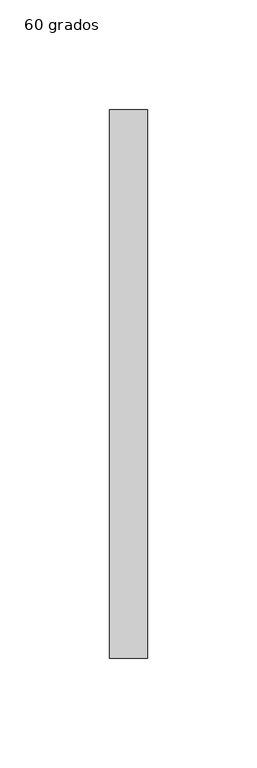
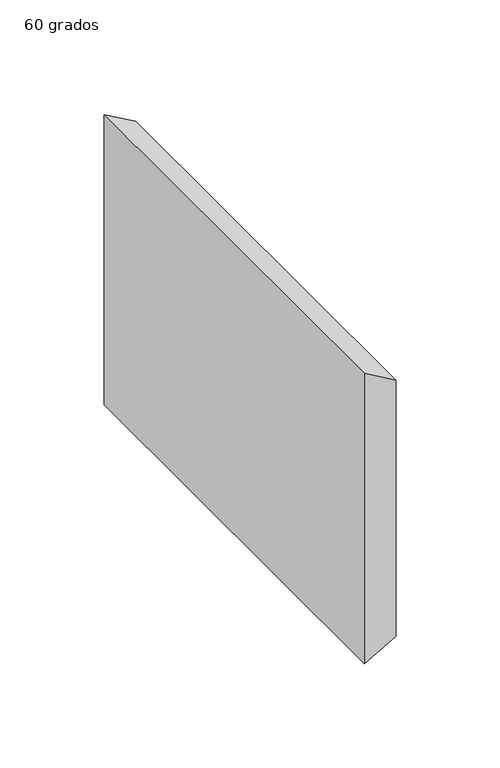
"""IFC4 building model written with IfcOpenShell, lengths in millimetres: duct fitting geometry, M_Transición rectangular - Ángulo : 60 grados."""

import ifcopenshell
import ifcopenshell.guid

model = None  # the IFC model being written
_history = None  # IfcOwnerHistory: only IFC2X3 demands one
_inside = {}  # id of a spatial element -> (the spatial element, [elements in it])
_under = {}  # id of a project, library or spatial element -> (it, [spatial elements below it])
_declared = {}  # id of a project -> (the project, [libraries it declares])
_typed = {}  # id of a type object -> (the type object, [elements of that type])
_made_of = {}  # id of a material, layer set ... -> (it, [elements and type objects made of it])


def new_model(schema):
    """Start an empty IFC model of exactly this schema.

    Asked for "IFC4X3", IfcOpenShell would pick the latest addendum, in which some entities
    have other attributes; the version numbers below select the first issue.
    IFC2X3 requires an IfcOwnerHistory on every rooted entity: one is made here for all.
    """
    global model, _history
    if schema == "IFC4X3":
        model = ifcopenshell.file(schema_version=(4, 3, 0, 0))
    else:
        model = ifcopenshell.file(schema=schema)
    _inside.clear()
    _under.clear()
    _declared.clear()
    _typed.clear()
    _made_of.clear()
    _history = None
    if model.schema == "IFC2X3":
        org = make("IfcOrganization", Name="unknown")
        user = make(
            "IfcPersonAndOrganization",
            ThePerson=make("IfcPerson", FamilyName="unknown"),
            TheOrganization=org,
        )
        app = make(
            "IfcApplication",
            ApplicationDeveloper=org,
            Version="unknown",
            ApplicationFullName="unknown",
            ApplicationIdentifier="unknown",
        )
        _history = make(
            "IfcOwnerHistory",
            OwningUser=user,
            OwningApplication=app,
            ChangeAction="ADDED",
            CreationDate=0,
        )
    return model


def make(cls, **values):
    """One entity of the class cls with the attributes given. An attribute that is None is left unset."""
    return model.create_entity(
        cls, **{name: value for name, value in values.items() if value is not None}
    )


def rooted(cls, **values):
    """An entity with a GlobalId (a new one), such as an element, a storey or a relation."""
    return make(cls, GlobalId=ifcopenshell.guid.new(), OwnerHistory=_history, **values)


def si_unit(unit_type, name, prefix=None):
    """IfcSIUnit, for example si_unit("LENGTHUNIT", "METRE", prefix="MILLI")."""
    return make("IfcSIUnit", UnitType=unit_type, Prefix=prefix, Name=name)


def assignment(units):
    """IfcUnitAssignment: the units of a project."""
    return None if units is None else make("IfcUnitAssignment", Units=units)


def point(xyz):
    """IfcCartesianPoint."""
    return None if xyz is None else make("IfcCartesianPoint", Coordinates=xyz)


def direction(xyz):
    """IfcDirection."""
    return None if xyz is None else make("IfcDirection", DirectionRatios=xyz)


def frame(location, z_axis=None, x_axis=None):
    """IfcAxis2Placement3D, a coordinate frame: its origin and axes. An axis left out is left unset."""
    return make(
        "IfcAxis2Placement3D",
        Location=point(location),
        Axis=direction(z_axis),
        RefDirection=direction(x_axis),
    )


def origin():
    """The frame at (0, 0, 0) with its axes left unset."""
    return frame((0.0, 0.0, 0.0))


def place(relative_to, where):
    """IfcLocalPlacement: puts the frame where relative to a parent placement (None: the world)."""
    return make(
        "IfcLocalPlacement", PlacementRelTo=relative_to, RelativePlacement=where
    )


def context(
    kind, dimensions, precision=None, world=None, true_north=None, identifier=None
):
    """IfcGeometricRepresentationContext, for example the 3D "Model" context."""
    return make(
        "IfcGeometricRepresentationContext",
        ContextIdentifier=identifier,
        ContextType=kind,
        CoordinateSpaceDimension=dimensions,
        Precision=precision,
        WorldCoordinateSystem=world,
        TrueNorth=true_north,
    )


def project(units=None, contexts=None):
    """IfcProject with its units and contexts."""
    return rooted(
        "IfcProject",
        Name="project",
        RepresentationContexts=contexts,
        UnitsInContext=assignment(units),
    )


def spatial(cls, under=None, at=None, **own):
    """A site, building, storey or space (cls), placed at a placement, below another one or the project."""
    s = rooted(cls, ObjectPlacement=at, **own)
    if under is not None:
        _under.setdefault(under.id(), (under, []))[1].append(s)
    return s


def polyline(points):
    """IfcPolyline through the points."""
    return make("IfcPolyline", Points=[point(p) for p in points])


def outline(outer, holes=None, kind="AREA"):
    """IfcArbitraryClosedProfileDef: a profile drawn as a closed curve; with holes, ...WithVoids."""
    if holes is None:
        return make("IfcArbitraryClosedProfileDef", ProfileType=kind, OuterCurve=outer)
    return make(
        "IfcArbitraryProfileDefWithVoids",
        ProfileType=kind,
        OuterCurve=outer,
        InnerCurves=holes,
    )


def extrude(swept, where, along, depth):
    """IfcExtrudedAreaSolid: the profile swept, set in the frame where, extruded along a direction by depth."""
    return make(
        "IfcExtrudedAreaSolid",
        SweptArea=swept,
        Position=where,
        ExtrudedDirection=direction(along),
        Depth=depth,
    )


def shape(context_of_items, identifier, shape_type, items):
    """IfcShapeRepresentation: the items that make up one representation, for example the "Body"."""
    return make(
        "IfcShapeRepresentation",
        ContextOfItems=context_of_items,
        RepresentationIdentifier=identifier,
        RepresentationType=shape_type,
        Items=items,
    )


def source(mapping_origin, context_of_items, identifier, shape_type, items):
    """IfcRepresentationMap: a shape defined once, which mapped items show again and again."""
    return make(
        "IfcRepresentationMap",
        MappingOrigin=mapping_origin,
        MappedRepresentation=shape(context_of_items, identifier, shape_type, items),
    )


def transform(
    local_origin,
    x_axis=None,
    y_axis=None,
    z_axis=None,
    scale=None,
    scale2=None,
    scale3=None,
    uniform=True,
):
    """IfcCartesianTransformationOperator3D, or its non-uniform kind. x_axis, y_axis, z_axis: its Axis1, 2, 3."""
    if uniform:
        return make(
            "IfcCartesianTransformationOperator3D",
            Axis1=direction(x_axis),
            Axis2=direction(y_axis),
            LocalOrigin=point(local_origin),
            Scale=scale,
            Axis3=direction(z_axis),
        )
    return make(
        "IfcCartesianTransformationOperator3DnonUniform",
        Axis1=direction(x_axis),
        Axis2=direction(y_axis),
        LocalOrigin=point(local_origin),
        Scale=scale,
        Axis3=direction(z_axis),
        Scale2=scale2,
        Scale3=scale3,
    )


def mapped(mapping_source, mapping_target):
    """IfcMappedItem: shows the shape of a source again, moved by a transform."""
    return make(
        "IfcMappedItem", MappingSource=mapping_source, MappingTarget=mapping_target
    )


def made_of(thing, what):
    """Note that an element or type object is made of a material, layer set ...; save() writes the relation."""
    if what is not None:
        _made_of.setdefault(what.id(), (what, []))[1].append(thing)
    return thing


def element(
    cls,
    number,
    at=None,
    inside=None,
    cuts=None,
    type_object=None,
    material=None,
    context=None,
    identifier="Body",
    shape_type=None,
    held_by="IfcProductDefinitionShape",
    body=None,
    shapes=None,
    **own,
):
    """One element of the class cls, such as IfcWall. Its Tag is "e" and its number.

    at: its placement. inside: the storey or other place that contains it. cuts: it is an
    opening in that element (IfcRelVoidsElement). A single representation is given by context,
    identifier, shape_type and body (its items); several are given by shapes. held_by: the class
    of the entity that holds the representations. save() writes the other relations.
    """
    e = rooted(cls, Tag="e%d" % number, ObjectPlacement=at, **own)
    if body is not None:
        shapes = [shape(context, identifier, shape_type, body)]
    if shapes is not None:
        e.Representation = make(held_by, Representations=shapes)
    if inside is not None:
        _inside.setdefault(inside.id(), (inside, []))[1].append(e)
    if cuts is not None:
        rooted(
            "IfcRelVoidsElement", RelatingBuildingElement=cuts, RelatedOpeningElement=e
        )
    if type_object is not None:
        _typed.setdefault(type_object.id(), (type_object, []))[1].append(e)
    return made_of(e, material)


def aggregate(whole, parts):
    """IfcRelAggregates: a whole, such as a stair, and the parts it consists of."""
    return rooted("IfcRelAggregates", RelatingObject=whole, RelatedObjects=parts)


def save(model, path):
    """Write the relations noted so far, then the file.

    IfcRelAggregates (storeys below a building ...), IfcRelContainedInSpatialStructure (elements
    in a storey), IfcRelDefinesByType, IfcRelAssociatesMaterial and IfcRelDeclares: one each for
    every whole, place, type object, material and project.
    """
    for whole, parts in _under.values():
        aggregate(whole, parts)
    for where, things in _inside.values():
        rooted(
            "IfcRelContainedInSpatialStructure",
            RelatedElements=things,
            RelatingStructure=where,
        )
    for kind, things in _typed.values():
        rooted("IfcRelDefinesByType", RelatedObjects=things, RelatingType=kind)
    for what, things in _made_of.values():
        rooted("IfcRelAssociatesMaterial", RelatedObjects=things, RelatingMaterial=what)
    for by, libraries in _declared.values():
        rooted("IfcRelDeclares", RelatingContext=by, RelatedDefinitions=libraries)
    model.write(path)


def duct_fitting_60_grados_14099615(model_context):
    return source(origin(), model_context, "Body", "SweptSolid", [
        extrude(outline(polyline([(85.0, 0.0), (-85.0, 0.0), (-75.0, 17.3205081), (75.0, 17.3205081), (85.0, 0.0)])), frame((0.0, -125.0, 0.0), z_axis=(0.0, 1.0, 0.0), x_axis=(0.0, 0.0, 1.0)), (0.0, 0.0, 1.0), 250.0),
    ])


if __name__ == "__main__":
    model = new_model("IFC4")
    model_context = context("Model", 3, world=origin())
    ifc_project = project(units=[si_unit("LENGTHUNIT", "METRE", prefix="MILLI")], contexts=[model_context])
    site = spatial("IfcSite", under=ifc_project)
    building = spatial("IfcBuilding", under=site)
    placement = place(None, origin())
    duct_fitting_60_grados_shape = duct_fitting_60_grados_14099615(model_context)
    element("IfcDuctFitting", 1, ObjectType="M_Transición rectangular - Ángulo : 60 grados", at=placement, inside=building, context=model_context, shape_type="MappedRepresentation", body=[
        mapped(duct_fitting_60_grados_shape, transform((0.0, 0.0, 0.0), x_axis=(1.0, 0.0, 0.0), y_axis=(0.0, 1.0, 0.0), z_axis=(0.0, 0.0, 1.0))),
    ])
    save(model, "model.ifc")
